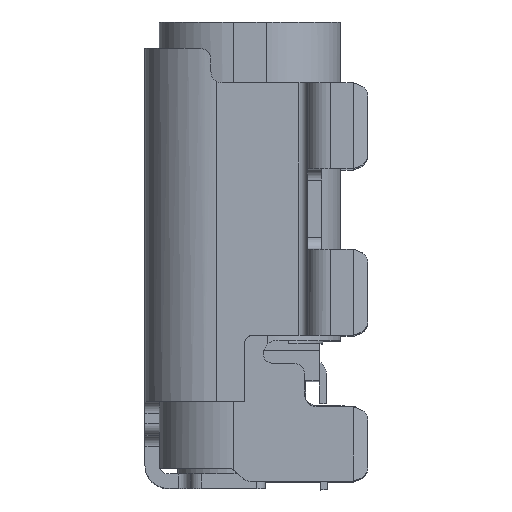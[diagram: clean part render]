
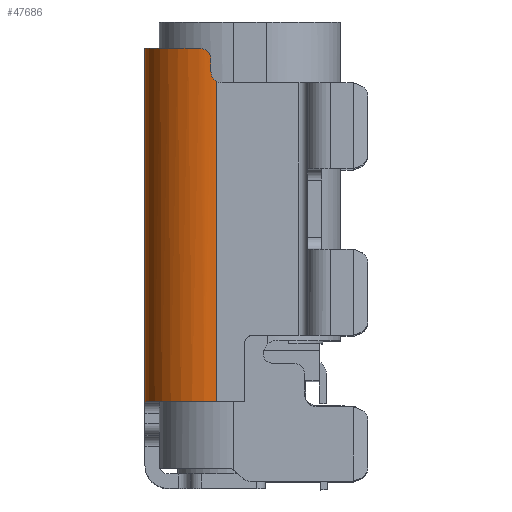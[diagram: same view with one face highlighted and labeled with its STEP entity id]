
A CAD part, top view. The second image highlights one B-rep face of the part: STEP entity #47686.
In plain terms, the highlighted cylindrical face has radius 1.25 mm (diameter 2.5 mm), a partial arc.
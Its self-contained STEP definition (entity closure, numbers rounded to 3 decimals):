
#495 = VERTEX_POINT ( 'NONE', #43036 ) ;
#500 = ORIENTED_EDGE ( 'NONE', *, *, #72952, .T. ) ;
#1645 = AXIS2_PLACEMENT_3D ( 'NONE', #41468, #42608, #77063 ) ;
#4361 = B_SPLINE_CURVE_WITH_KNOTS ( 'NONE', 3,
 ( #14932, #43865, #27073, #38785, #44252, #38387 ),
 .UNSPECIFIED., .F., .F.,
 ( 4, 2, 4 ),
 ( 0., 0.5, 1. ),
 .UNSPECIFIED. ) ;
#5574 = CARTESIAN_POINT ( 'NONE',  ( -4.74, -1.12, 0.85 ) ) ;
#5742 = ORIENTED_EDGE ( 'NONE', *, *, #15582, .T. ) ;
#6806 = VERTEX_POINT ( 'NONE', #10425 ) ;
#10425 = CARTESIAN_POINT ( 'NONE',  ( -3.49, 0.13, 7. ) ) ;
#13059 = VERTEX_POINT ( 'NONE', #5574 ) ;
#13114 = CARTESIAN_POINT ( 'NONE',  ( -3.49, 0.13, 0. ) ) ;
#14572 = CARTESIAN_POINT ( 'NONE',  ( -4.74, -1.059, 6.462 ) ) ;
#14932 = CARTESIAN_POINT ( 'NONE',  ( -4.736, -1.02, 6.8 ) ) ;
#14997 = DIRECTION ( 'NONE',  ( -1., 0., 0. ) ) ;
#15582 = EDGE_CURVE ( 'NONE', #495, #16415, #35008, .T. ) ;
#16415 = VERTEX_POINT ( 'NONE', #25748 ) ;
#18168 = EDGE_CURVE ( 'NONE', #18864, #13059, #58383, .T. ) ;
#18389 = ORIENTED_EDGE ( 'NONE', *, *, #41640, .T. ) ;
#18864 = VERTEX_POINT ( 'NONE', #60345 ) ;
#19646 = LINE ( 'NONE', #57151, #54422 ) ;
#22087 = VECTOR ( 'NONE', #48288, 1000. ) ;
#22528 = VECTOR ( 'NONE', #43081, 1000. ) ;
#24539 = ORIENTED_EDGE ( 'NONE', *, *, #18168, .T. ) ;
#25748 = CARTESIAN_POINT ( 'NONE',  ( -4.736, -1.02, 6.6 ) ) ;
#26574 = CYLINDRICAL_SURFACE ( 'NONE', #39994, 1.25 ) ;
#26619 = CIRCLE ( 'NONE', #1645, 1.25 ) ;
#26874 = ORIENTED_EDGE ( 'NONE', *, *, #29323, .T. ) ;
#27073 = CARTESIAN_POINT ( 'NONE',  ( -4.735, -0.998, 6.905 ) ) ;
#27857 = DIRECTION ( 'NONE',  ( 0., 0., 1. ) ) ;
#29323 = EDGE_CURVE ( 'NONE', #31054, #69257, #4361, .T. ) ;
#31054 = VERTEX_POINT ( 'NONE', #41388 ) ;
#32171 = CARTESIAN_POINT ( 'NONE',  ( -4.74, -1.12, 6.427 ) ) ;
#33884 = EDGE_CURVE ( 'NONE', #18864, #6806, #72548, .T. ) ;
#35008 = B_SPLINE_CURVE_WITH_KNOTS ( 'NONE', 3,
 ( #32171, #14572, #38422, #39576 ),
 .UNSPECIFIED., .F., .F.,
 ( 4, 4 ),
 ( 0., 1. ),
 .UNSPECIFIED. ) ;
#38387 = CARTESIAN_POINT ( 'NONE',  ( -4.703, -0.82, 7. ) ) ;
#38422 = CARTESIAN_POINT ( 'NONE',  ( -4.736, -1.02, 6.529 ) ) ;
#38548 = CARTESIAN_POINT ( 'NONE',  ( -4.703, -0.82, 7. ) ) ;
#38785 = CARTESIAN_POINT ( 'NONE',  ( -4.725, -0.924, 6.979 ) ) ;
#38841 = CARTESIAN_POINT ( 'NONE',  ( -3.49, -1.12, 0.85 ) ) ;
#39576 = CARTESIAN_POINT ( 'NONE',  ( -4.736, -1.02, 6.6 ) ) ;
#39994 = AXIS2_PLACEMENT_3D ( 'NONE', #62514, #61740, #51166 ) ;
#41363 = ORIENTED_EDGE ( 'NONE', *, *, #76503, .T. ) ;
#41388 = CARTESIAN_POINT ( 'NONE',  ( -4.736, -1.02, 6.8 ) ) ;
#41468 = CARTESIAN_POINT ( 'NONE',  ( -3.49, -1.12, 7. ) ) ;
#41640 = EDGE_CURVE ( 'NONE', #13059, #495, #48939, .T. ) ;
#42608 = DIRECTION ( 'NONE',  ( 0., 0., -1. ) ) ;
#43036 = CARTESIAN_POINT ( 'NONE',  ( -4.74, -1.12, 6.427 ) ) ;
#43081 = DIRECTION ( 'NONE',  ( 0., 0., 1. ) ) ;
#43865 = CARTESIAN_POINT ( 'NONE',  ( -4.736, -1.02, 6.854 ) ) ;
#44252 = CARTESIAN_POINT ( 'NONE',  ( -4.716, -0.872, 7. ) ) ;
#47686 = ADVANCED_FACE ( 'NONE', ( #56263 ), #26574, .T. ) ;
#48288 = DIRECTION ( 'NONE',  ( 0., 0., 1. ) ) ;
#48651 = EDGE_LOOP ( 'NONE', ( #66319, #24539, #18389, #5742, #41363, #26874, #500 ) ) ;
#48939 = LINE ( 'NONE', #67731, #22528 ) ;
#51166 = DIRECTION ( 'NONE',  ( -1., 0., 0. ) ) ;
#54422 = VECTOR ( 'NONE', #27857, 1000. ) ;
#55665 = DIRECTION ( 'NONE',  ( 0., 0., 1. ) ) ;
#56263 = FACE_OUTER_BOUND ( 'NONE', #48651, .T. ) ;
#57151 = CARTESIAN_POINT ( 'NONE',  ( -4.736, -1.02, 16.986 ) ) ;
#58383 = CIRCLE ( 'NONE', #73353, 1.25 ) ;
#60345 = CARTESIAN_POINT ( 'NONE',  ( -3.49, 0.13, 0.85 ) ) ;
#61740 = DIRECTION ( 'NONE',  ( 0., 0., -1. ) ) ;
#62514 = CARTESIAN_POINT ( 'NONE',  ( -3.49, -1.12, 16.986 ) ) ;
#66319 = ORIENTED_EDGE ( 'NONE', *, *, #33884, .F. ) ;
#67731 = CARTESIAN_POINT ( 'NONE',  ( -4.74, -1.12, 16.986 ) ) ;
#69257 = VERTEX_POINT ( 'NONE', #38548 ) ;
#72548 = LINE ( 'NONE', #13114, #22087 ) ;
#72952 = EDGE_CURVE ( 'NONE', #69257, #6806, #26619, .T. ) ;
#73353 = AXIS2_PLACEMENT_3D ( 'NONE', #38841, #55665, #14997 ) ;
#76503 = EDGE_CURVE ( 'NONE', #16415, #31054, #19646, .T. ) ;
#77063 = DIRECTION ( 'NONE',  ( -1., 0., 0. ) ) ;
